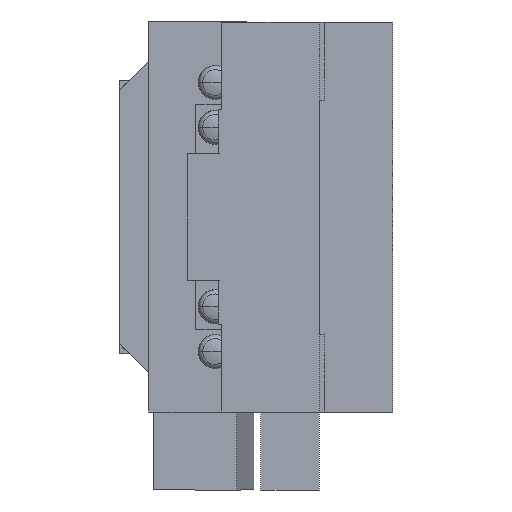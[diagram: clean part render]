
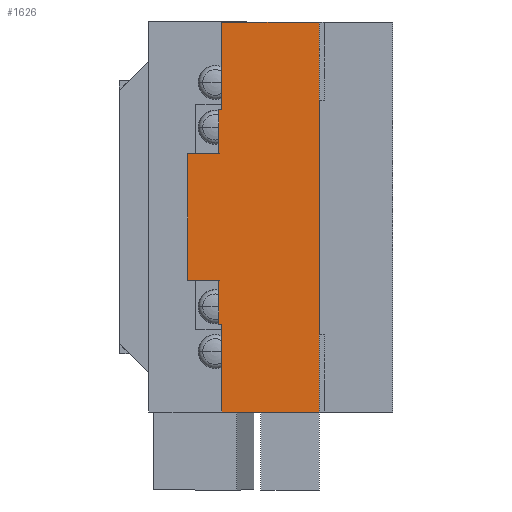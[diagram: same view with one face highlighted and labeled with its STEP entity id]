
A CAD part, left-side view. The second image highlights one B-rep face of the part: STEP entity #1626.
In plain terms, the highlighted planar face has unit normal (-1, 0, 0).
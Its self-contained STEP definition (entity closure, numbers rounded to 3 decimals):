
#25 = CARTESIAN_POINT ( 'NONE',  ( -27., -6.5, -20. ) ) ;
#40 = CARTESIAN_POINT ( 'NONE',  ( -27., 3.521, 11. ) ) ;
#96 = CARTESIAN_POINT ( 'NONE',  ( -27., 3.833, 6.5 ) ) ;
#116 = CARTESIAN_POINT ( 'NONE',  ( -27., 7., 6.5 ) ) ;
#117 = CARTESIAN_POINT ( 'NONE',  ( -27., 3.521, -11. ) ) ;
#151 = CARTESIAN_POINT ( 'NONE',  ( -27., 3.521, -20. ) ) ;
#178 = ORIENTED_EDGE ( 'NONE', *, *, #6115, .F. ) ;
#194 = EDGE_LOOP ( 'NONE', ( #947, #608, #923, #757, #178, #972, #1090, #396, #1142, #985, #1159, #929 ) ) ;
#250 = VERTEX_POINT ( 'NONE', #2636 ) ;
#265 = VERTEX_POINT ( 'NONE', #2766 ) ;
#285 = VERTEX_POINT ( 'NONE', #116 ) ;
#354 = VERTEX_POINT ( 'NONE', #117 ) ;
#396 = ORIENTED_EDGE ( 'NONE', *, *, #6112, .F. ) ;
#453 = VERTEX_POINT ( 'NONE', #151 ) ;
#467 = DIRECTION ( 'NONE',  ( 0., 0., 1. ) ) ;
#562 = VERTEX_POINT ( 'NONE', #96 ) ;
#608 = ORIENTED_EDGE ( 'NONE', *, *, #6081, .T. ) ;
#663 = CARTESIAN_POINT ( 'NONE',  ( -27., 7., 20. ) ) ;
#691 = CARTESIAN_POINT ( 'NONE',  ( -27., 3.833, 6.5 ) ) ;
#701 = LINE ( 'NONE', #663, #4151 ) ;
#757 = ORIENTED_EDGE ( 'NONE', *, *, #6002, .F. ) ;
#769 = CARTESIAN_POINT ( 'NONE',  ( -27., 3.521, 20. ) ) ;
#837 = CARTESIAN_POINT ( 'NONE',  ( -27., 3.833, -6.5 ) ) ;
#851 = DIRECTION ( 'NONE',  ( 0., -1., 0. ) ) ;
#886 = LINE ( 'NONE', #691, #3795 ) ;
#923 = ORIENTED_EDGE ( 'NONE', *, *, #6086, .F. ) ;
#929 = ORIENTED_EDGE ( 'NONE', *, *, #6098, .T. ) ;
#947 = ORIENTED_EDGE ( 'NONE', *, *, #6132, .T. ) ;
#972 = ORIENTED_EDGE ( 'NONE', *, *, #6180, .F. ) ;
#985 = ORIENTED_EDGE ( 'NONE', *, *, #6102, .T. ) ;
#1035 = CARTESIAN_POINT ( 'NONE',  ( -27., 3.833, -11. ) ) ;
#1090 = ORIENTED_EDGE ( 'NONE', *, *, #5946, .F. ) ;
#1142 = ORIENTED_EDGE ( 'NONE', *, *, #6142, .T. ) ;
#1159 = ORIENTED_EDGE ( 'NONE', *, *, #1669, .T. ) ;
#1218 = VERTEX_POINT ( 'NONE', #40 ) ;
#1238 = VERTEX_POINT ( 'NONE', #25 ) ;
#1326 = CARTESIAN_POINT ( 'NONE',  ( -27., -6.5, 20. ) ) ;
#1626 = ADVANCED_FACE ( 'NONE', ( #5736 ), #5734, .F. ) ;
#1669 = EDGE_CURVE ( 'NONE', #1747, #3190, #5494, .T. ) ;
#1738 = VERTEX_POINT ( 'NONE', #1326 ) ;
#1747 = VERTEX_POINT ( 'NONE', #837 ) ;
#2552 = DIRECTION ( 'NONE',  ( 0., -1., 0. ) ) ;
#2553 = CARTESIAN_POINT ( 'NONE',  ( -27., 3.833, 11. ) ) ;
#2554 = LINE ( 'NONE', #2553, #4950 ) ;
#2636 = CARTESIAN_POINT ( 'NONE',  ( -27., 7., -6.5 ) ) ;
#2766 = CARTESIAN_POINT ( 'NONE',  ( -27., 3.833, 11. ) ) ;
#3038 = VERTEX_POINT ( 'NONE', #769 ) ;
#3190 = VERTEX_POINT ( 'NONE', #1035 ) ;
#3264 = CARTESIAN_POINT ( 'NONE',  ( -27., -6.5, 20. ) ) ;
#3276 = DIRECTION ( 'NONE',  ( 0., 0., -1. ) ) ;
#3277 = LINE ( 'NONE', #3593, #4939 ) ;
#3332 = DIRECTION ( 'NONE',  ( 0., -1., 0. ) ) ;
#3360 = DIRECTION ( 'NONE',  ( 0., 0., -1. ) ) ;
#3441 = LINE ( 'NONE', #3457, #4908 ) ;
#3455 = DIRECTION ( 'NONE',  ( 0., -1., 0. ) ) ;
#3457 = CARTESIAN_POINT ( 'NONE',  ( -27., 7., 6.5 ) ) ;
#3496 = LINE ( 'NONE', #3264, #3778 ) ;
#3507 = LINE ( 'NONE', #3543, #4902 ) ;
#3540 = LINE ( 'NONE', #3573, #4829 ) ;
#3543 = CARTESIAN_POINT ( 'NONE',  ( -27., 3.521, 11. ) ) ;
#3567 = DIRECTION ( 'NONE',  ( 0., 0., -1. ) ) ;
#3573 = CARTESIAN_POINT ( 'NONE',  ( -27., 7., 20. ) ) ;
#3587 = DIRECTION ( 'NONE',  ( 0., 0., 1. ) ) ;
#3593 = CARTESIAN_POINT ( 'NONE',  ( -27., 3.833, -11. ) ) ;
#3604 = LINE ( 'NONE', #3712, #4851 ) ;
#3607 = DIRECTION ( 'NONE',  ( 0., -1., 0. ) ) ;
#3624 = LINE ( 'NONE', #3641, #4931 ) ;
#3634 = LINE ( 'NONE', #3669, #4143 ) ;
#3641 = CARTESIAN_POINT ( 'NONE',  ( -27., 7., -6.5 ) ) ;
#3669 = CARTESIAN_POINT ( 'NONE',  ( -27., 7., -20. ) ) ;
#3680 = DIRECTION ( 'NONE',  ( 0., -1., 0. ) ) ;
#3712 = CARTESIAN_POINT ( 'NONE',  ( -27., 3.521, -11. ) ) ;
#3778 = VECTOR ( 'NONE', #3276, 1000. ) ;
#3795 = VECTOR ( 'NONE', #467, 1000. ) ;
#3897 = VECTOR ( 'NONE', #5445, 1000. ) ;
#4020 = AXIS2_PLACEMENT_3D ( 'NONE', #5742, #5729, #5728 ) ;
#4143 = VECTOR ( 'NONE', #3332, 1000. ) ;
#4151 = VECTOR ( 'NONE', #851, 1000. ) ;
#4829 = VECTOR ( 'NONE', #3567, 1000. ) ;
#4851 = VECTOR ( 'NONE', #3360, 1000. ) ;
#4902 = VECTOR ( 'NONE', #3587, 1000. ) ;
#4908 = VECTOR ( 'NONE', #3455, 1000. ) ;
#4931 = VECTOR ( 'NONE', #3680, 1000. ) ;
#4939 = VECTOR ( 'NONE', #3607, 1000. ) ;
#4950 = VECTOR ( 'NONE', #2552, 1000. ) ;
#5445 = DIRECTION ( 'NONE',  ( 0., 0., -1. ) ) ;
#5494 = LINE ( 'NONE', #5500, #3897 ) ;
#5500 = CARTESIAN_POINT ( 'NONE',  ( -27., 3.833, -6.5 ) ) ;
#5728 = DIRECTION ( 'NONE',  ( 0., 0., -1. ) ) ;
#5729 = DIRECTION ( 'NONE',  ( 1., 0., 0. ) ) ;
#5734 = PLANE ( 'NONE',  #4020 ) ;
#5736 = FACE_OUTER_BOUND ( 'NONE', #194, .T. ) ;
#5742 = CARTESIAN_POINT ( 'NONE',  ( -27., 7., 20. ) ) ;
#5946 = EDGE_CURVE ( 'NONE', #562, #265, #886, .T. ) ;
#6002 = EDGE_CURVE ( 'NONE', #3038, #1738, #701, .T. ) ;
#6081 = EDGE_CURVE ( 'NONE', #453, #1238, #3634, .T. ) ;
#6086 = EDGE_CURVE ( 'NONE', #1738, #1238, #3496, .T. ) ;
#6098 = EDGE_CURVE ( 'NONE', #3190, #354, #3277, .T. ) ;
#6102 = EDGE_CURVE ( 'NONE', #250, #1747, #3624, .T. ) ;
#6112 = EDGE_CURVE ( 'NONE', #285, #562, #3441, .T. ) ;
#6115 = EDGE_CURVE ( 'NONE', #1218, #3038, #3507, .T. ) ;
#6132 = EDGE_CURVE ( 'NONE', #354, #453, #3604, .T. ) ;
#6142 = EDGE_CURVE ( 'NONE', #285, #250, #3540, .T. ) ;
#6180 = EDGE_CURVE ( 'NONE', #265, #1218, #2554, .T. ) ;
